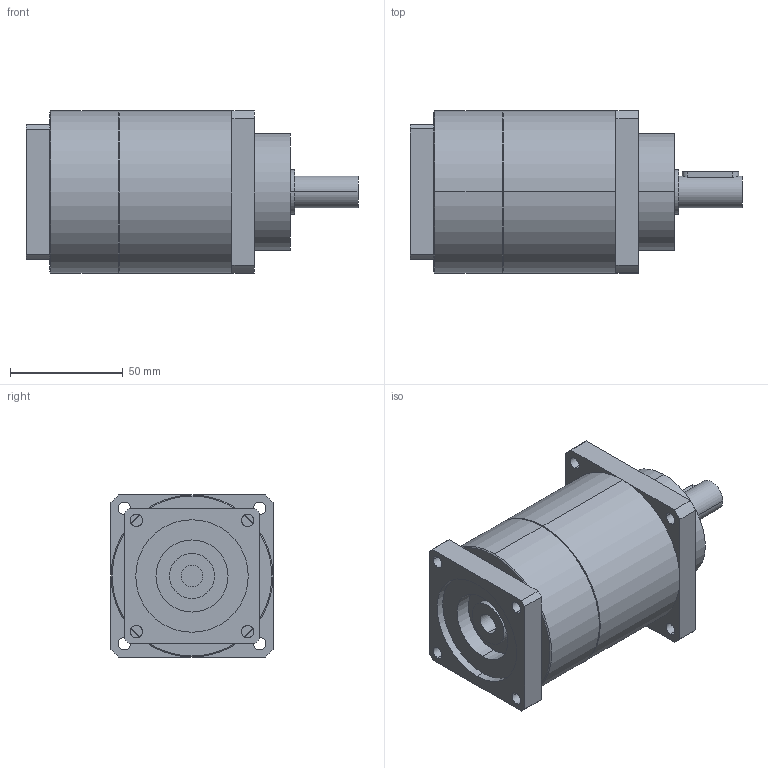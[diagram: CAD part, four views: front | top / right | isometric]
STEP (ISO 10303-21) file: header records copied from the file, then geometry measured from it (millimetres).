
FILE_DESCRIPTION(('CoCreate Modeling STEP Export'),'2;1');
FILE_NAME('GPT75_ig-9-12-16-20-25-28-35-40-50-70-100_14_B5T_9.52_P20.stp','2014-08-27T13:42:57',(''),(''),'CoCreate Modeling STEP processor for AP214 (Solid Model)','CoCreate Modeling 16.00C 25-Feb-2009 (C) Parametric Technology GmbH','');
FILE_SCHEMA(('AUTOMOTIVE_DESIGN { 1 0 10303 214 1 1 1 1 }'));
Length unit declared in the file: millimetre
Products named in the file (2): GPT75_ig-9-12-16-20-25-28-35-40-50-70-100_14_B5T_9.52_P20
Assembly tree (1 placements, depth 2):
  GPT75_ig-9-12-16-20-25-28-35-40-50-70-100_14_B5T_9.52_P20
    GPT75_ig-9-12-16-20-25-28-35-40-50-70-100_14_B5T_9.52_P20
Bounding box: 147.5 x 72 x 72 mm (x, y, z)
Volume: 442363.1 mm3; surface area: 42271.6 mm2
Topology: 1 solids, 1 shells, 88 faces, 221 edges, 140 vertices
Faces by surface type: cylinder 46, plane 38, cone 4
Entity records: 2651 total; most frequent: CARTESIAN_POINT 739, ORIENTED_EDGE 442, DIRECTION 334, EDGE_CURVE 221, VERTEX_POINT 140, AXIS2_PLACEMENT_3D 123, EDGE_LOOP 109, VECTOR 88
